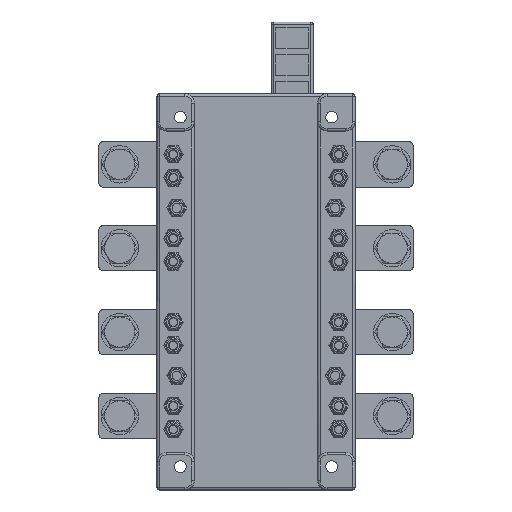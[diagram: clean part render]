
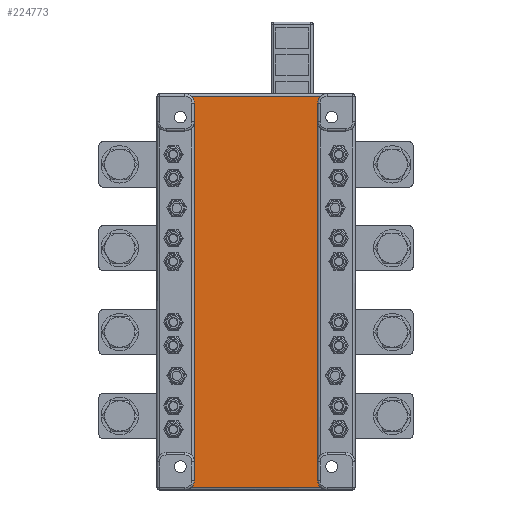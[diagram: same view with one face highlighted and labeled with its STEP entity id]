
A CAD part, top view. The second image highlights one B-rep face of the part: STEP entity #224773.
In plain terms, the highlighted planar face has unit normal (0, 0, 1).
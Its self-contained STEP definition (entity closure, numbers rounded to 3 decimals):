
#73116=DIRECTION('',(0.,-1.,0.));
#73117=VECTOR('',#73116,162.);
#73118=CARTESIAN_POINT('',(26.5,166.,6.));
#73119=LINE('',#73118,#73117);
#73120=CARTESIAN_POINT('',(30.5,4.,6.));
#73121=DIRECTION('',(0.,0.,1.));
#73122=DIRECTION('',(-1.,0.,0.));
#73123=AXIS2_PLACEMENT_3D('',#73120,#73121,#73122);
#73125=CARTESIAN_POINT('',(-30.5,4.,6.));
#73126=DIRECTION('',(0.,0.,1.));
#73127=DIRECTION('',(0.661,-0.75,0.));
#73128=AXIS2_PLACEMENT_3D('',#73125,#73126,#73127);
#73130=DIRECTION('',(0.,1.,0.));
#73131=VECTOR('',#73130,162.);
#73132=CARTESIAN_POINT('',(-26.5,4.,6.));
#73133=LINE('',#73132,#73131);
#73134=CARTESIAN_POINT('',(-30.5,166.,6.));
#73135=DIRECTION('',(0.,0.,1.));
#73136=DIRECTION('',(1.,0.,0.));
#73137=AXIS2_PLACEMENT_3D('',#73134,#73135,#73136);
#73139=CARTESIAN_POINT('',(30.5,166.,6.));
#73140=DIRECTION('',(0.,0.,1.));
#73141=DIRECTION('',(-0.661,0.75,0.));
#73142=AXIS2_PLACEMENT_3D('',#73139,#73140,#73141);
#73156=DIRECTION('',(1.,0.,0.));
#73157=VECTOR('',#73156,55.708);
#73158=CARTESIAN_POINT('',(-27.854,1.,6.));
#73159=LINE('',#73158,#73157);
#73160=CARTESIAN_POINT('',(27.854,1.,6.));
#77922=DIRECTION('',(-1.,0.,0.));
#77923=VECTOR('',#77922,55.708);
#77924=CARTESIAN_POINT('',(27.854,169.,6.));
#77925=LINE('',#77924,#77923);
#89663=CARTESIAN_POINT('',(-26.5,4.,6.));
#89664=VERTEX_POINT('',#89663);
#89665=CARTESIAN_POINT('',(-27.854,1.,6.));
#89666=VERTEX_POINT('',#89665);
#90641=VERTEX_POINT('',#73160);
#90642=CARTESIAN_POINT('',(26.5,4.,6.));
#90643=VERTEX_POINT('',#90642);
#90644=CARTESIAN_POINT('',(26.5,166.,6.));
#90645=VERTEX_POINT('',#90644);
#90646=CARTESIAN_POINT('',(-26.5,166.,6.));
#90647=VERTEX_POINT('',#90646);
#90648=CARTESIAN_POINT('',(-27.854,169.,6.));
#90649=VERTEX_POINT('',#90648);
#90650=CARTESIAN_POINT('',(27.854,169.,6.));
#90651=VERTEX_POINT('',#90650);
#224752=CARTESIAN_POINT('',(0.,0.,6.));
#224753=DIRECTION('',(0.,0.,1.));
#224754=DIRECTION('',(0.,1.,0.));
#224755=AXIS2_PLACEMENT_3D('',#224752,#224753,#224754);
#224756=PLANE('',#224755);
#224758=ORIENTED_EDGE('',*,*,#224757,.T.);
#224760=ORIENTED_EDGE('',*,*,#224759,.T.);
#224762=ORIENTED_EDGE('',*,*,#224761,.F.);
#224763=ORIENTED_EDGE('',*,*,#218131,.T.);
#224764=ORIENTED_EDGE('',*,*,#218110,.T.);
#224766=ORIENTED_EDGE('',*,*,#224765,.T.);
#224768=ORIENTED_EDGE('',*,*,#224767,.F.);
#224770=ORIENTED_EDGE('',*,*,#224769,.T.);
#224771=EDGE_LOOP('',(#224758,#224760,#224762,#224763,#224764,#224766,#224768,
#224770));
#224772=FACE_OUTER_BOUND('',#224771,.F.);
#73124=CIRCLE('',#73123,4.);
#73129=CIRCLE('',#73128,4.);
#73138=CIRCLE('',#73137,4.);
#73143=CIRCLE('',#73142,4.);
#218110=EDGE_CURVE('',#89664,#90647,#73133,.T.);
#218131=EDGE_CURVE('',#89666,#89664,#73129,.T.);
#224757=EDGE_CURVE('',#90645,#90643,#73119,.T.);
#224759=EDGE_CURVE('',#90643,#90641,#73124,.T.);
#224761=EDGE_CURVE('',#89666,#90641,#73159,.T.);
#224765=EDGE_CURVE('',#90647,#90649,#73138,.T.);
#224767=EDGE_CURVE('',#90651,#90649,#77925,.T.);
#224769=EDGE_CURVE('',#90651,#90645,#73143,.T.);
#224773=ADVANCED_FACE('',(#224772),#224756,.T.);
